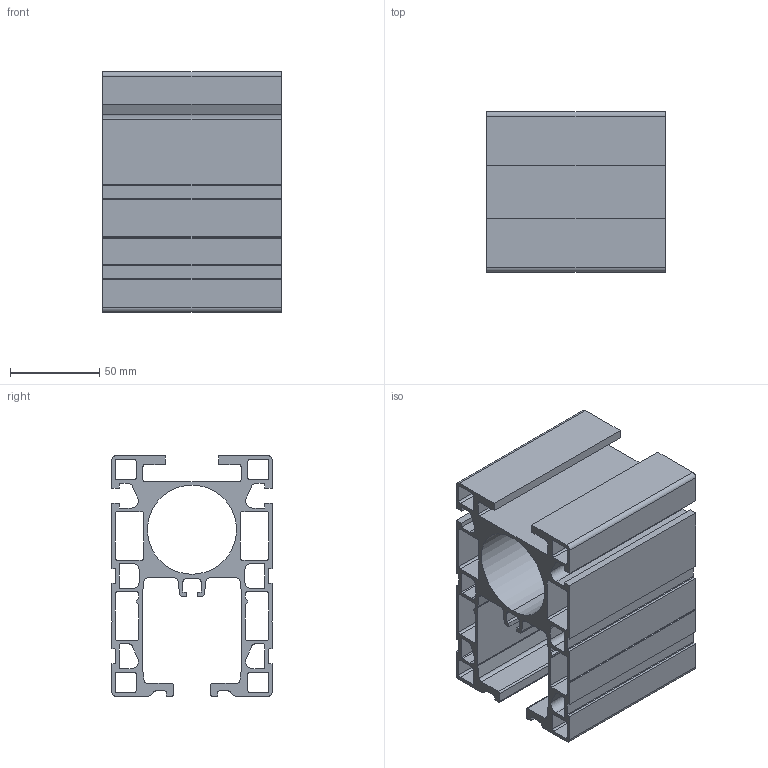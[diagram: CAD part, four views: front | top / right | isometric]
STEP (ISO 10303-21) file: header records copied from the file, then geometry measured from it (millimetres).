
FILE_DESCRIPTION (( 'STEP AP214' ), '1' );
FILE_NAME ('900.135.091.STEP', '2020-07-23T09:05:23', ( '' ), ( '' ), 'SwSTEP 2.0', 'SolidWorks 2018', '' );
FILE_SCHEMA (( 'AUTOMOTIVE_DESIGN' ));
Length unit declared in the file: millimetre
Products named in the file (1): 900.135.091
Bounding box: 100 x 90 x 135 mm (x, y, z)
Volume: 306246.5 mm3; surface area: 175740.5 mm2
Topology: 1 solids, 1 shells, 240 faces, 714 edges, 476 vertices
Faces by surface type: plane 140, cylinder 100
Entity records: 8164 total; most frequent: CARTESIAN_POINT 1431, ORIENTED_EDGE 1428, DIRECTION 1396, EDGE_CURVE 714, LINE 514, VECTOR 514, VERTEX_POINT 476, AXIS2_PLACEMENT_3D 441
